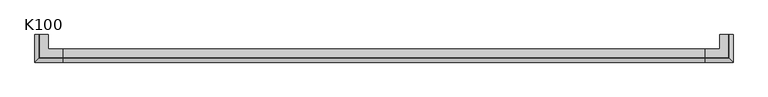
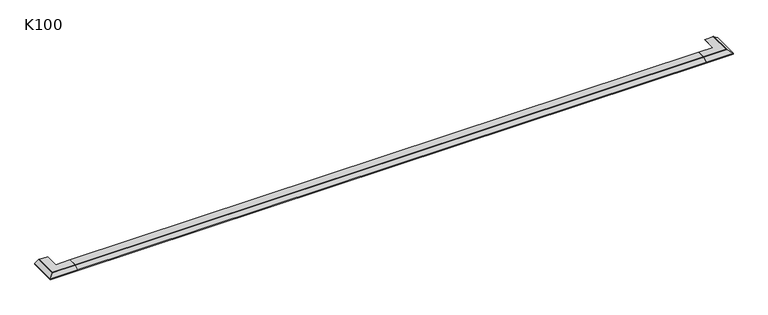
"""IFC4 building model written with IfcOpenShell, lengths in millimetres: proxy geometry, K100 Profil okapowy prosty : K100."""

from ifc_helpers import new_model, si_unit, frame, origin, place, context, project, spatial, polyline, outline, extrude, faceted_brep, source, transform, mapped, element, save


def k100_529ed3ec(model_context):
    return source(origin(), model_context, "Body", "SolidModel", [
        faceted_brep([(4830.0, 0.0, -3.0), (4830.0, 0.0, 0.0), (4830.0, 1.25, 0.0), (4830.0, 1.25, -3.0), (4830.0, 66.25, -3.0), (4830.0, 66.25, -4.25), (4830.0, 1.25, -4.25), (4830.0, 1.25, -7.25), (4830.0, 0.0, -7.25), (4830.0, 0.0, -4.4598861), (4830.0, -28.75, -21.8057194), (4830.0, -28.75, -29.17), (4830.0, -30.0, -30.42), (4830.0, -30.0, -21.1), (5030.0, -30.0, -21.1), (5000.0, 0.0, -3.0), (5030.0, -30.0, -30.42), (5028.75, -28.75, -29.17), (5028.75, -28.75, -21.8057194), (5000.0, 0.0, -4.4598861), (5000.0, 0.0, -7.25), (4998.75, 1.25, -7.25), (4998.75, 170.0, -7.25), (5000.0, 170.0, -7.25), (4998.75, 1.25, -4.25), (4933.75, 66.25, -4.25), (4933.75, 170.0, -4.25), (4998.75, 170.0, -4.25), (4933.75, 66.25, -3.0), (4998.75, 1.25, -3.0), (4998.75, 170.0, -3.0), (4933.75, 170.0, -3.0), (4998.75, 1.25, 0.0), (5000.0, 0.0, 0.0), (5000.0, 170.0, 0.0), (4998.75, 170.0, 0.0), (5000.0, 170.0, -3.0), (5030.0, 170.0, -21.1), (5030.0, 170.0, -30.42), (5028.75, 170.0, -29.17), (5028.75, 170.0, -21.8057194), (5000.0, 170.0, -4.4598861)], [[[0, 1, 2, 3, 4, 5, 6, 7, 8, 9, 10, 11, 12, 13]], [[13, 14, 15, 0]], [[12, 16, 14, 13]], [[11, 17, 16, 12]], [[10, 18, 17, 11]], [[9, 19, 18, 10]], [[8, 20, 19, 9]], [[7, 21, 22, 23, 20, 8]], [[6, 24, 21, 7]], [[5, 25, 26, 27, 24, 6]], [[4, 28, 25, 5]], [[3, 29, 30, 31, 28, 4]], [[2, 32, 29, 3]], [[1, 33, 34, 35, 32, 2]], [[0, 15, 33, 1]], [[36, 37, 38, 39, 40, 41, 23, 22, 27, 26, 31, 30, 35, 34]], [[14, 37, 36, 15]], [[16, 38, 37, 14]], [[17, 39, 38, 16]], [[18, 40, 39, 17]], [[19, 41, 40, 18]], [[20, 23, 41, 19]], [[24, 27, 22, 21]], [[28, 31, 26, 25]], [[32, 35, 30, 29]], [[15, 36, 34, 33]]]),
        faceted_brep([(170.0, 0.0, -3.0), (170.0, -30.0, -21.1), (170.0, -30.0, -30.42), (170.0, -28.75, -29.17), (170.0, -28.75, -21.8057194), (170.0, 0.0, -4.4598861), (170.0, 0.0, -7.25), (170.0, 1.25, -7.25), (170.0, 1.25, -4.25), (170.0, 66.25, -4.25), (170.0, 66.25, -3.0), (170.0, 1.25, -3.0), (170.0, 1.25, 0.0), (170.0, 0.0, 0.0), (0.0, 0.0, -3.0), (-30.0, -30.0, -21.1), (-30.0, -30.0, -30.42), (-28.75, -28.75, -29.17), (-28.75, -28.75, -21.8057194), (0.0, 0.0, -4.4598861), (0.0, 0.0, -7.25), (0.0, 170.0, -7.25), (1.25, 170.0, -7.25), (1.25, 1.25, -7.25), (1.25, 1.25, -4.25), (1.25, 170.0, -4.25), (66.25, 170.0, -4.25), (66.25, 66.25, -4.25), (66.25, 66.25, -3.0), (66.25, 170.0, -3.0), (1.25, 170.0, -3.0), (1.25, 1.25, -3.0), (1.25, 1.25, 0.0), (1.25, 170.0, 0.0), (0.0, 170.0, 0.0), (0.0, 0.0, 0.0), (0.0, 170.0, -3.0), (0.0, 170.0, -4.4598861), (-28.75, 170.0, -21.8057194), (-28.75, 170.0, -29.17), (-30.0, 170.0, -30.42), (-30.0, 170.0, -21.1)], [[[0, 1, 2, 3, 4, 5, 6, 7, 8, 9, 10, 11, 12, 13]], [[1, 0, 14, 15]], [[2, 1, 15, 16]], [[3, 2, 16, 17]], [[4, 3, 17, 18]], [[5, 4, 18, 19]], [[6, 5, 19, 20]], [[7, 6, 20, 21, 22, 23]], [[8, 7, 23, 24]], [[9, 8, 24, 25, 26, 27]], [[10, 9, 27, 28]], [[11, 10, 28, 29, 30, 31]], [[12, 11, 31, 32]], [[13, 12, 32, 33, 34, 35]], [[0, 13, 35, 14]], [[36, 34, 33, 30, 29, 26, 25, 22, 21, 37, 38, 39, 40, 41]], [[15, 14, 36, 41]], [[16, 15, 41, 40]], [[17, 16, 40, 39]], [[18, 17, 39, 38]], [[19, 18, 38, 37]], [[20, 19, 37, 21]], [[24, 23, 22, 25]], [[28, 27, 26, 29]], [[32, 31, 30, 33]], [[14, 35, 34, 36]]]),
        extrude(outline(polyline([(0.0, -3.0), (0.0, 0.0), (1.25, 0.0), (1.25, -3.0), (66.25, -3.0), (66.25, -4.25), (1.25, -4.25), (1.25, -7.25), (0.0, -7.25), (0.0, -4.4598861), (-28.75, -21.8057194), (-28.75, -29.17), (-30.0, -30.42), (-30.0, -21.1), (0.0, -3.0)])), frame((170.0, 0.0, 0.0), z_axis=(1.0, 0.0, 0.0), x_axis=(0.0, 1.0, 0.0)), (0.0, 0.0, 1.0), 4660.0),
    ])


if __name__ == "__main__":
    model = new_model("IFC4")
    model_context = context("Model", 3, world=origin())
    ifc_project = project(units=[si_unit("LENGTHUNIT", "METRE", prefix="MILLI")], contexts=[model_context])
    site = spatial("IfcSite", under=ifc_project)
    building = spatial("IfcBuilding", under=site)
    placement = place(None, origin())
    k100_shape = k100_529ed3ec(model_context)
    element("IfcBuildingElementProxy", 1, Name="K100 Profil okapowy prosty : K100", ObjectType="K100 Profil okapowy prosty : K100", at=placement, inside=building, context=model_context, shape_type="MappedRepresentation", body=[
        mapped(k100_shape, transform((0.0, 0.0, 0.0), x_axis=(1.0, 0.0, 0.0), y_axis=(0.0, 1.0, 0.0), z_axis=(0.0, 0.0, 1.0))),
    ])
    save(model, "model.ifc")
